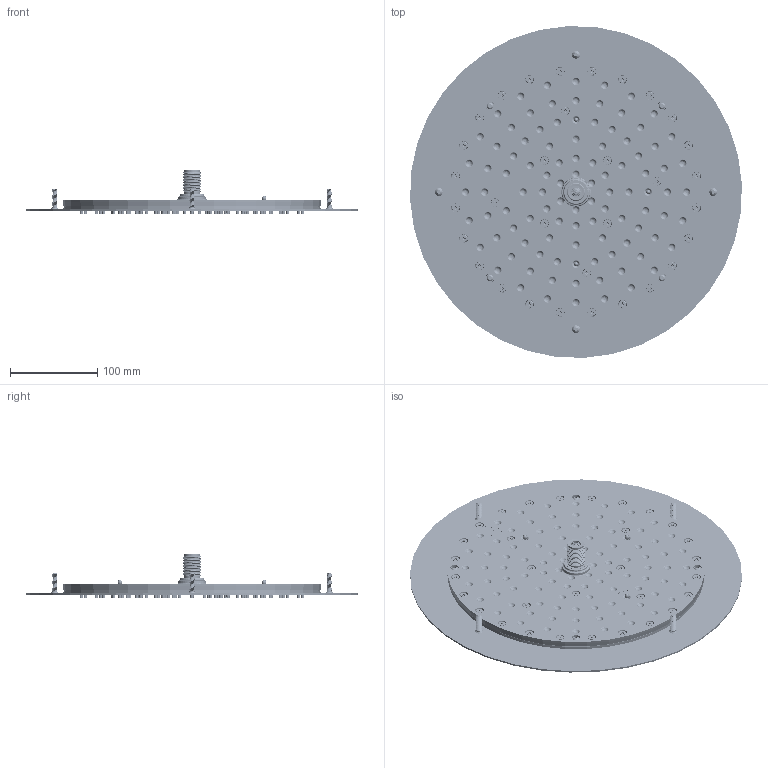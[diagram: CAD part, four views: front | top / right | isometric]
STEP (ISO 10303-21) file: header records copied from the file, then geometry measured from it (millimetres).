
FILE_DESCRIPTION(/* description */ ('Unknown'),/* implementation_level */ '2;1');
FILE_NAME(/* name */ 'RE049',/* time_stamp */ '2023-07-27T16:00:59+02:00',/* author */ ('Unknown'),/* organization */ ('Unknown'),/* preprocessor_version */ 'ST-DEVELOPER v18.102',/* originating_system */ 'Solid Edge',/* authorisation */ 'Unknown');
FILE_SCHEMA (('INTEGRATED_CNC_SCHEMA','AUTOMOTIVE_DESIGN {1 0 10303 214 3 1 1}'));
Products named in the file (14): RE049; C017020_03900LI; C092029_00001ZZ; E055090_08700ZZ_ASM; A063076_51900ZZ; A064043_53200ZZ; A020106_16100EU; C024019_00100ZZ; C092105_00200ZZ; C032039_02100ZZ; C140021; C092021_00000ZZ; C069014_00000ZZ; C028007_00000ZZ
Assembly tree (50 placements, depth 3):
  RE049
    C017020_03900LI
    C092029_00001ZZ  x4
    E055090_08700ZZ_ASM
      A063076_51900ZZ
      A064043_53200ZZ
      A020106_16100EU
      C024019_00100ZZ
      C092105_00200ZZ  x32
    C032039_02100ZZ
    C140021
    C092021_00000ZZ  x4
    C069014_00000ZZ
    C028007_00000ZZ
Bounding box: 379.5 x 379.5 x 50.3 mm (x, y, z)
Volume: 892604.9 mm3; surface area: 693034.5 mm2
Topology: 50 solids, 50 shells, 8071 faces, 20389 edges, 12833 vertices
Faces by surface type: plane 2148, cylinder 1929, cone 1575, torus 1526, bspline 509, sphere 384
Full cylindrical faces by diameter (mm): 3.2 x4, 3.5 x32, 4 x28, 5 x102, 6 x80, 7 x5, 7.35 x4, 8 x32, 8.2 x8, 10 x1, 11 x2, 12 x4, 12.5 x1, 14 x1, 14.9 x1, 15 x1, 15.05 x1, 16.3 x1, 16.4 x1, 18.4 x1, 18.6 x1, 19 x1, 23.5 x1, 265 x1, 380 x1
Entity records: 154509 total; most frequent: CARTESIAN_POINT 47045, DIRECTION 22121, ORIENTED_EDGE 19140, AXIS2_PLACEMENT_3D 10049, EDGE_CURVE 9570, FACE_BOUND 8505, EDGE_LOOP 8494, VERTEX_POINT 7421
